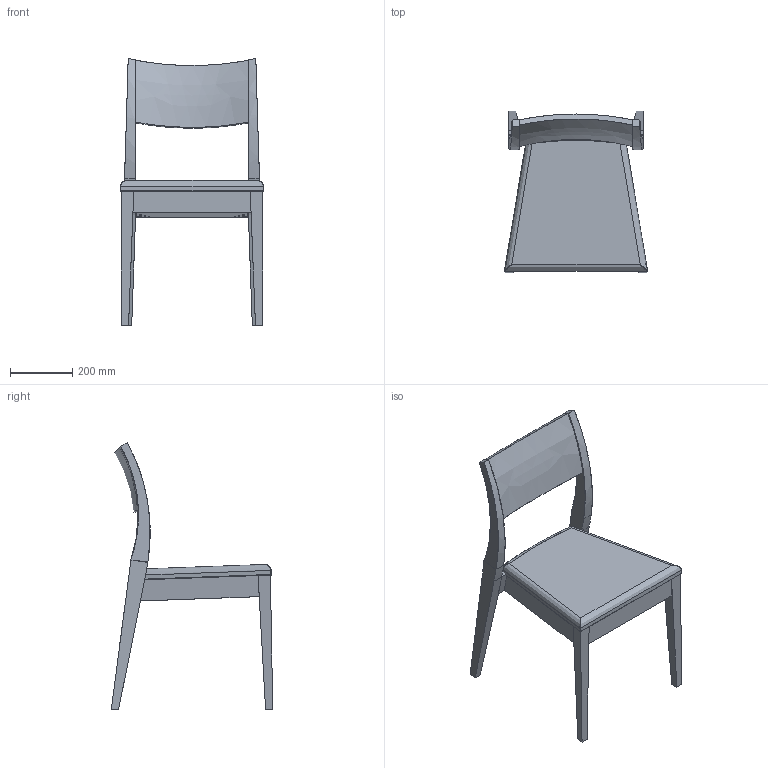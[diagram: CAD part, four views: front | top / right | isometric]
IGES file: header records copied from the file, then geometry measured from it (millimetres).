
Start section: SolidWorks IGES file using analytic representation for surfaces
Global section: file name: C:\Users\Adao\Documents\Trab Adao\Desenho técnico PRODUÇÃO\J M S\ELIE\ELIE (3D)\CADEIRA (3D)\CADEIRA M-60 E.IGS; native system: SolidWorks 2012; preprocessor: SolidWorks 2012; author: Adao; date: 121219.130735; units: millimetre
Bounding box: 461.61 x 520.82 x 860.32 mm (x, y, z)
Surface area: 1529598.5 mm2 (no closed solid volume)
Topology: 0 solids, 0 shells, 109 faces, 907 edges, 901 vertices
Faces by surface type: bspline 89, revolution 20
